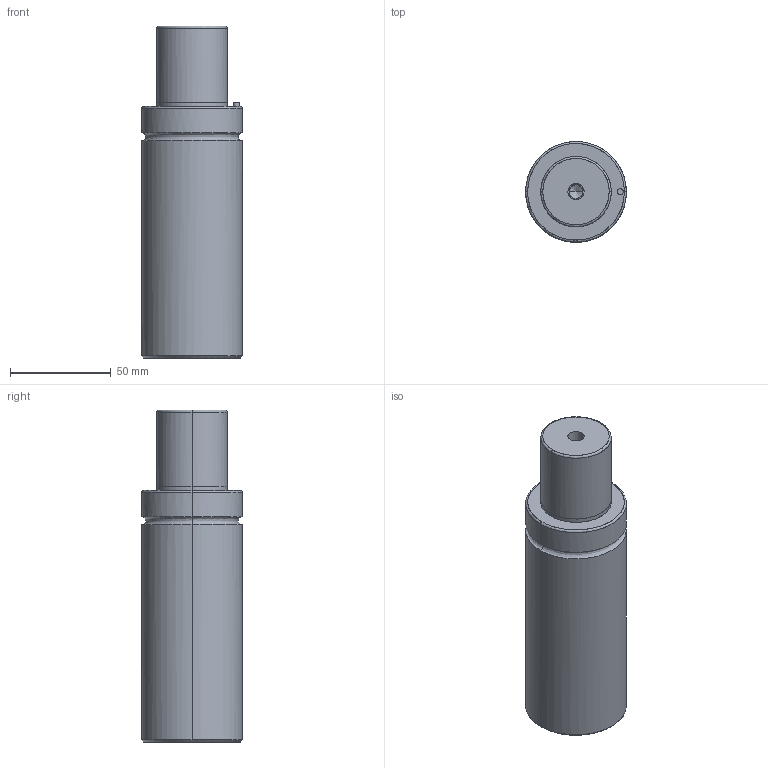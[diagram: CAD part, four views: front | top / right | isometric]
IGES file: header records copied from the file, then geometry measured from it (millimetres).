
Global section: file name: E:\UnigraphicsGraphicData\MISUMI_PRESS-PARTS\IGES\3d_gsm50-38_03934_r00.igs; native system: NX V5.0; preprocessor: UGS NX IGES V5.0; author: MISUMI; date: 20110105.160816; units: millimetre
Bounding box: 50 x 49.95 x 165 mm (x, y, z)
Surface area: 29522.6 mm2 (no closed solid volume)
Topology: 0 solids, 0 shells, 50 faces, 344 edges, 336 vertices
Faces by surface type: bspline 50
